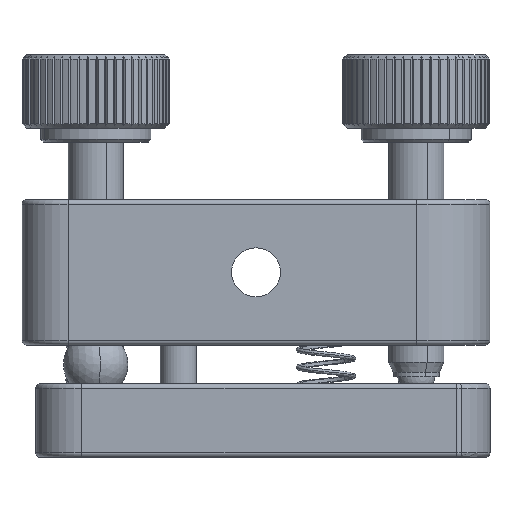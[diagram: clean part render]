
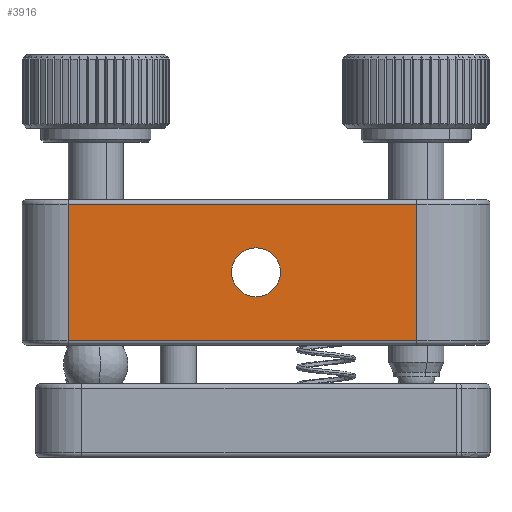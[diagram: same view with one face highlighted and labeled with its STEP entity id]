
A CAD part, front view. The second image highlights one B-rep face of the part: STEP entity #3916.
In plain terms, the highlighted planar face has unit normal (0, -1, 0).
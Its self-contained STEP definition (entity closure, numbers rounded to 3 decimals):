
#637 = EDGE_CURVE ( 'NONE', #4267, #26318, #32220, .T. ) ;
#959 = DIRECTION ( 'NONE',  ( 0., -1., 0. ) ) ;
#1143 = VECTOR ( 'NONE', #19046, 1000. ) ;
#1804 = DIRECTION ( 'NONE',  ( 1., 0., 0. ) ) ;
#1869 = VECTOR ( 'NONE', #6818, 1000. ) ;
#3437 = AXIS2_PLACEMENT_3D ( 'NONE', #10067, #20629, #31210 ) ;
#3916 = ADVANCED_FACE ( 'NONE', ( #12658, #23222 ), #33802, .F. ) ;
#4267 = VERTEX_POINT ( 'NONE', #20250 ) ;
#4639 = EDGE_CURVE ( 'NONE', #24140, #4267, #19974, .T. ) ;
#5842 = EDGE_CURVE ( 'NONE', #20244, #30734, #12672, .T. ) ;
#5997 = CARTESIAN_POINT ( 'NONE',  ( 59.302, 27.866, -50.889 ) ) ;
#6818 = DIRECTION ( 'NONE',  ( -1., 0., 0. ) ) ;
#7905 = DIRECTION ( 'NONE',  ( 0., 0., -1. ) ) ;
#8473 = CARTESIAN_POINT ( 'NONE',  ( 36.252, 27.866, -42.989 ) ) ;
#8630 = EDGE_LOOP ( 'NONE', ( #16161, #32351, #16241, #11503 ) ) ;
#10067 = CARTESIAN_POINT ( 'NONE',  ( 74.052, 27.866, -42.989 ) ) ;
#11077 = AXIS2_PLACEMENT_3D ( 'NONE', #14946, #25526, #1804 ) ;
#11499 = DIRECTION ( 'NONE',  ( 1., 0., 0. ) ) ;
#11503 = ORIENTED_EDGE ( 'NONE', *, *, #4639, .T. ) ;
#11898 = LINE ( 'NONE', #22462, #12775 ) ;
#11946 = CARTESIAN_POINT ( 'NONE',  ( 74.052, 27.866, -43.489 ) ) ;
#12658 = FACE_BOUND ( 'NONE', #33697, .T. ) ;
#12672 = CIRCLE ( 'NONE', #32051, 2.65 ) ;
#12775 = VECTOR ( 'NONE', #33033, 1000. ) ;
#14946 = CARTESIAN_POINT ( 'NONE',  ( 56.652, 27.866, -50.889 ) ) ;
#16161 = ORIENTED_EDGE ( 'NONE', *, *, #637, .T. ) ;
#16241 = ORIENTED_EDGE ( 'NONE', *, *, #28930, .F. ) ;
#19046 = DIRECTION ( 'NONE',  ( 0., 0., -1. ) ) ;
#19297 = CARTESIAN_POINT ( 'NONE',  ( 74.052, 27.866, -58.289 ) ) ;
#19859 = ORIENTED_EDGE ( 'NONE', *, *, #5842, .F. ) ;
#19974 = LINE ( 'NONE', #30545, #1869 ) ;
#20244 = VERTEX_POINT ( 'NONE', #26033 ) ;
#20250 = CARTESIAN_POINT ( 'NONE',  ( 36.252, 27.866, -43.489 ) ) ;
#20629 = DIRECTION ( 'NONE',  ( 0., 1., 0. ) ) ;
#21050 = LINE ( 'NONE', #31638, #28849 ) ;
#22462 = CARTESIAN_POINT ( 'NONE',  ( 74.052, 27.866, -58.289 ) ) ;
#23222 = FACE_OUTER_BOUND ( 'NONE', #8630, .T. ) ;
#24140 = VERTEX_POINT ( 'NONE', #11946 ) ;
#24396 = ORIENTED_EDGE ( 'NONE', *, *, #27900, .F. ) ;
#24681 = CARTESIAN_POINT ( 'NONE',  ( 56.652, 27.866, -50.889 ) ) ;
#25526 = DIRECTION ( 'NONE',  ( 0., -1., 0. ) ) ;
#26008 = CIRCLE ( 'NONE', #11077, 2.65 ) ;
#26033 = CARTESIAN_POINT ( 'NONE',  ( 54.002, 27.866, -50.889 ) ) ;
#26318 = VERTEX_POINT ( 'NONE', #32308 ) ;
#26375 = VERTEX_POINT ( 'NONE', #19297 ) ;
#27900 = EDGE_CURVE ( 'NONE', #30734, #20244, #26008, .T. ) ;
#28849 = VECTOR ( 'NONE', #7905, 1000. ) ;
#28930 = EDGE_CURVE ( 'NONE', #24140, #26375, #21050, .T. ) ;
#30402 = EDGE_CURVE ( 'NONE', #26318, #26375, #11898, .T. ) ;
#30545 = CARTESIAN_POINT ( 'NONE',  ( 36.252, 27.866, -43.489 ) ) ;
#30734 = VERTEX_POINT ( 'NONE', #5997 ) ;
#31210 = DIRECTION ( 'NONE',  ( -1., 0., 0. ) ) ;
#31638 = CARTESIAN_POINT ( 'NONE',  ( 74.052, 27.866, -42.989 ) ) ;
#32051 = AXIS2_PLACEMENT_3D ( 'NONE', #24681, #959, #11499 ) ;
#32220 = LINE ( 'NONE', #8473, #1143 ) ;
#32308 = CARTESIAN_POINT ( 'NONE',  ( 36.252, 27.866, -58.289 ) ) ;
#32351 = ORIENTED_EDGE ( 'NONE', *, *, #30402, .T. ) ;
#33033 = DIRECTION ( 'NONE',  ( 1., 0., 0. ) ) ;
#33697 = EDGE_LOOP ( 'NONE', ( #24396, #19859 ) ) ;
#33802 = PLANE ( 'NONE',  #3437 ) ;
